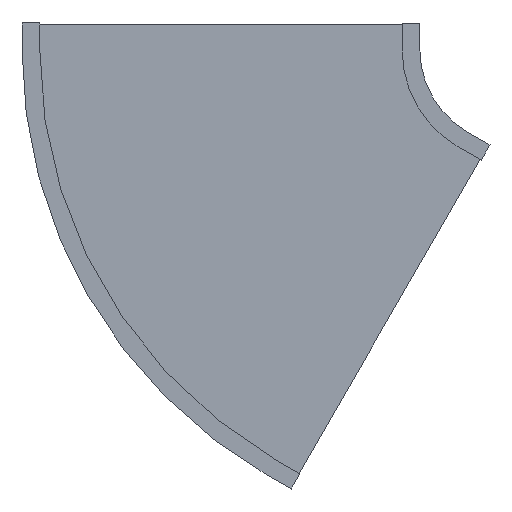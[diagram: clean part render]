
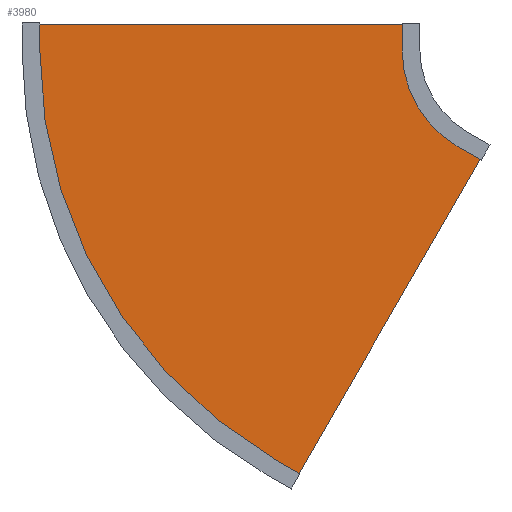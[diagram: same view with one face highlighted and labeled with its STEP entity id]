
A CAD part, front view. The second image highlights one B-rep face of the part: STEP entity #3980.
In plain terms, the highlighted planar face has unit normal (0, -1, 0).
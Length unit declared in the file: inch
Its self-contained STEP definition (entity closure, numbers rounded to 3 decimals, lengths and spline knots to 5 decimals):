
#3825=DIRECTION('',(0.,0.,1.));
#3826=VECTOR('',#3825,41.875);
#3827=CARTESIAN_POINT('',(-2.875,0.,-20.9375));
#3828=LINE('',#3827,#3826);
#3829=DIRECTION('',(1.,0.,0.));
#3830=VECTOR('',#3829,2.875);
#3831=CARTESIAN_POINT('',(-2.875,0.,20.9375));
#3832=LINE('',#3831,#3830);
#3833=CARTESIAN_POINT('',(0.,0.,33.11));
#3834=DIRECTION('',(0.,-1.,0.));
#3835=DIRECTION('',(0.,0.,-1.));
#3836=AXIS2_PLACEMENT_3D('',#3833,#3834,#3835);
#3838=DIRECTION('',(0.5,0.,0.866));
#3839=VECTOR('',#3838,2.875);
#3840=CARTESIAN_POINT('',(10.54169,0.,27.02375));
#3841=LINE('',#3840,#3839);
#3842=DIRECTION('',(0.866,0.,-0.5));
#3843=VECTOR('',#3842,41.875);
#3844=CARTESIAN_POINT('',(11.97919,0.,29.51357));
#3845=LINE('',#3844,#3843);
#3846=DIRECTION('',(-0.5,0.,-0.866));
#3847=VECTOR('',#3846,2.875);
#3848=CARTESIAN_POINT('',(48.24401,0.,8.57607));
#3849=LINE('',#3848,#3847);
#3850=CARTESIAN_POINT('',(0.,0.,33.11));
#3851=DIRECTION('',(0.,1.,0.));
#3852=DIRECTION('',(0.866,0.,-0.5));
#3853=AXIS2_PLACEMENT_3D('',#3850,#3851,#3852);
#3855=DIRECTION('',(-1.,0.,0.));
#3856=VECTOR('',#3855,2.875);
#3857=CARTESIAN_POINT('',(0.,0.,-20.9375));
#3858=LINE('',#3857,#3856);
#3925=CARTESIAN_POINT('',(-2.875,0.,-20.9375));
#3926=CARTESIAN_POINT('',(-2.875,0.,20.9375));
#3927=VERTEX_POINT('',#3925);
#3928=VERTEX_POINT('',#3926);
#3929=CARTESIAN_POINT('',(0.,0.,20.9375));
#3930=VERTEX_POINT('',#3929);
#3931=CARTESIAN_POINT('',(10.54169,0.,27.02375));
#3932=VERTEX_POINT('',#3931);
#3933=CARTESIAN_POINT('',(11.97919,0.,29.51357));
#3934=VERTEX_POINT('',#3933);
#3935=CARTESIAN_POINT('',(48.24401,0.,8.57607));
#3936=VERTEX_POINT('',#3935);
#3937=CARTESIAN_POINT('',(46.80651,0.,6.08625));
#3938=VERTEX_POINT('',#3937);
#3939=CARTESIAN_POINT('',(0.,0.,-20.9375));
#3940=VERTEX_POINT('',#3939);
#3957=CARTESIAN_POINT('',(0.,0.,0.));
#3958=DIRECTION('',(0.,1.,0.));
#3959=DIRECTION('',(1.,0.,0.));
#3960=AXIS2_PLACEMENT_3D('',#3957,#3958,#3959);
#3961=PLANE('',#3960);
#3963=ORIENTED_EDGE('',*,*,#3962,.T.);
#3965=ORIENTED_EDGE('',*,*,#3964,.T.);
#3967=ORIENTED_EDGE('',*,*,#3966,.T.);
#3969=ORIENTED_EDGE('',*,*,#3968,.T.);
#3971=ORIENTED_EDGE('',*,*,#3970,.T.);
#3973=ORIENTED_EDGE('',*,*,#3972,.T.);
#3975=ORIENTED_EDGE('',*,*,#3974,.T.);
#3977=ORIENTED_EDGE('',*,*,#3976,.T.);
#3978=EDGE_LOOP('',(#3963,#3965,#3967,#3969,#3971,#3973,#3975,#3977));
#3979=FACE_OUTER_BOUND('',#3978,.F.);
#3980=ADVANCED_FACE('',(#3979),#3961,.F.);
#3837=CIRCLE('',#3836,12.1725);
#3854=CIRCLE('',#3853,54.0475);
#3962=EDGE_CURVE('',#3927,#3928,#3828,.T.);
#3964=EDGE_CURVE('',#3928,#3930,#3832,.T.);
#3966=EDGE_CURVE('',#3930,#3932,#3837,.T.);
#3968=EDGE_CURVE('',#3932,#3934,#3841,.T.);
#3970=EDGE_CURVE('',#3934,#3936,#3845,.T.);
#3972=EDGE_CURVE('',#3936,#3938,#3849,.T.);
#3974=EDGE_CURVE('',#3938,#3940,#3854,.T.);
#3976=EDGE_CURVE('',#3940,#3927,#3858,.T.);
